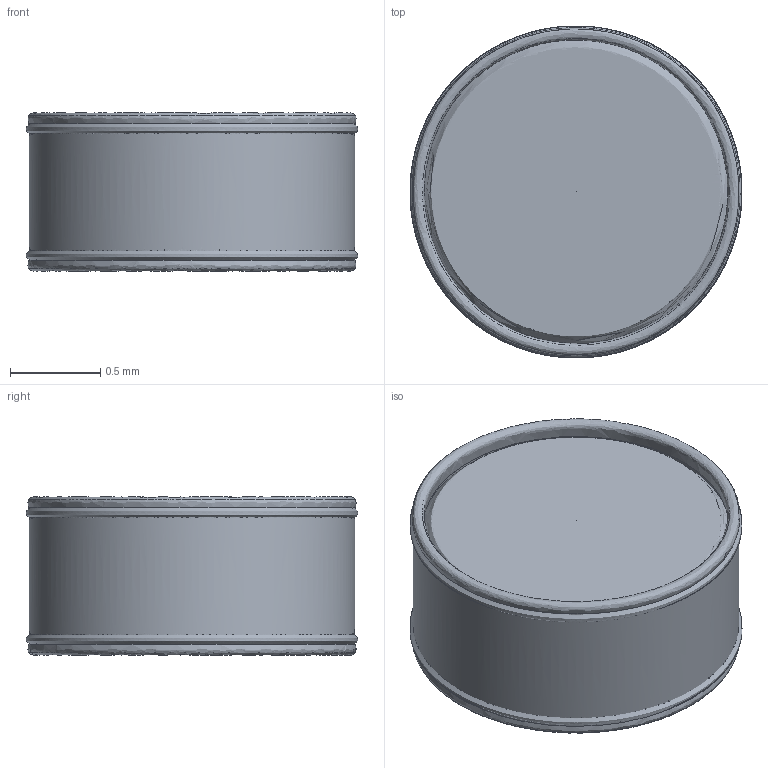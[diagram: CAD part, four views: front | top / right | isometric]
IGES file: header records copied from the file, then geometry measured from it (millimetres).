
Global section: file name: /home/lore/2005/xcmodel_3.2/surfaces/Rullante.igs; native system: XCMODEL ver.3.0 Universita' di Bologna; preprocessor: formato IGES Nov. 2001; date: 060219.230814; units: millimetre
Bounding box: 1.84 x 1.84 x 0.87 mm (x, y, z)
Surface area: 12.3 mm2 (no closed solid volume)
Topology: 0 solids, 0 shells, 5 faces, 15 edges, 10 vertices
Faces by surface type: bspline 5
